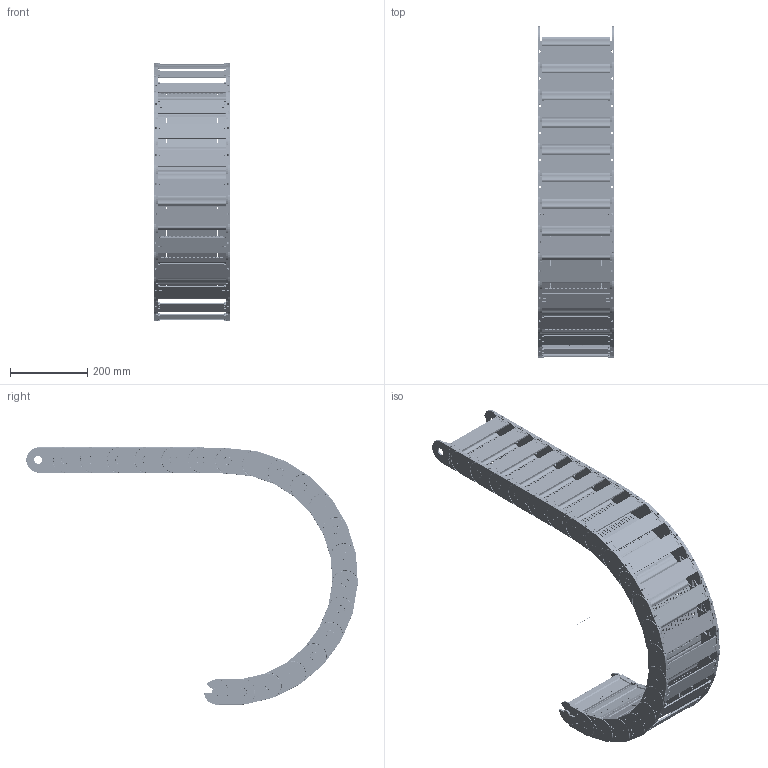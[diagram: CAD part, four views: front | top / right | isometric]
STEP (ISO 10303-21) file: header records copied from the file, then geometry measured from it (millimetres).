
FILE_DESCRIPTION((''),'2;1');
FILE_NAME('C:\Uebbing\PARAMETERKETTEN\KOLIBRI\Kol_65_195_1\Kol_65_195_1_R300.stp','2012-03-06T09:32:40',('Uebbing'),(''),'Autodesk Inventor 10','Autodesk Inventor 10','');
FILE_SCHEMA(('AUTOMOTIVE_DESIGN { 1 0 10303 214 1 1 1 1 }'));
Length unit declared in the file: millimetre
Products named in the file (5): KOLIBRI 65_195_1_PARAMETRISCH; Achse; Kol_65_195_1; Kol_65_195_5 Lasche; Kol_65_195_1 Klappsteg
Assembly tree (24 placements, depth 3):
  KOLIBRI 65_195_1_PARAMETRISCH
    Achse
    Kol_65_195_1  x21
      Kol_65_195_5 Lasche
      Kol_65_195_1 Klappsteg
Bounding box: 195 x 857.04 x 665 mm (x, y, z)
Volume: 2554912.8 mm3; surface area: 1831684.4 mm2
Topology: 43 solids, 43 shells, 14052 faces, 38581 edges, 24783 vertices
Faces by surface type: plane 5903, bspline 5313, cylinder 2248, torus 462, cone 84, sphere 42
Full cylindrical faces by diameter (mm): 1 x1, 2.514 x21, 4 x63, 4.414 x21, 6 x21, 20 x42
Entity records: 22871 total; most frequent: CARTESIAN_POINT 6263, ORIENTED_EDGE 3608, DIRECTION 3061, EDGE_CURVE 1804, VECTOR 1343, LINE 1343, VERTEX_POINT 1171, AXIS2_PLACEMENT_3D 859
